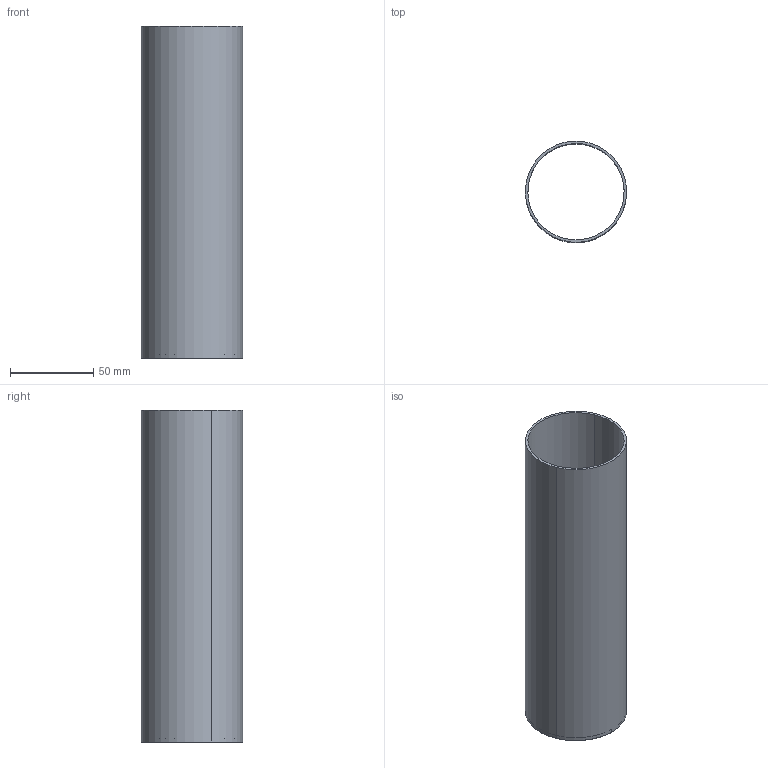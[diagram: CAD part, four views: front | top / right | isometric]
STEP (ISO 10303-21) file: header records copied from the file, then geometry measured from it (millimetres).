
FILE_DESCRIPTION(/* description */ ('VariCAD 2008 3.04 AP-203'),/* implementation_level */ '2;1');
FILE_NAME(/* name */ '0353-10-03',/* time_stamp */ '2009-04-22T23:01:13-06:00',/* author */ (''),/* organization */ (''),/* preprocessor_version */ 'ST-DEVELOPER v12',/* originating_system */ 'VariCAD 2008 3.04; kernel version (20080715)',/* authorisation */ '');
FILE_SCHEMA (('CONFIG_CONTROL_DESIGN'));
Length unit declared in the file: millimetre
Products named in the file (1): Part
Bounding box: 60.94 x 60.94 x 200 mm (x, y, z)
Volume: 54255.1 mm3; surface area: 75392.8 mm2
Topology: 1 solids, 1 shells, 12 faces, 24 edges, 16 vertices
Faces by surface type: cylinder 8, plane 4
Entity records: 374 total; most frequent: DIRECTION 68, CARTESIAN_POINT 54, ORIENTED_EDGE 48, AXIS2_PLACEMENT_3D 30, EDGE_CURVE 24, EDGE_LOOP 16, CIRCLE 16, VERTEX_POINT 16
